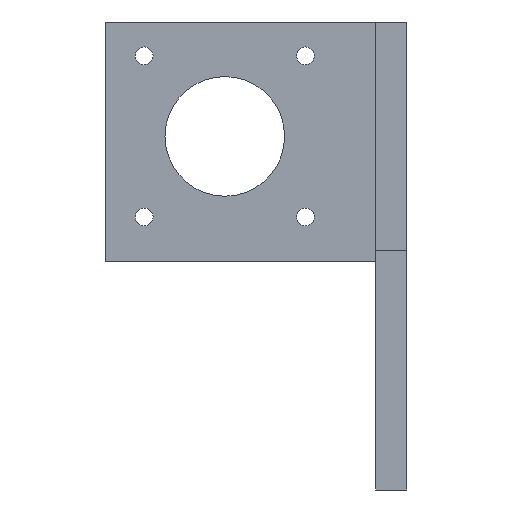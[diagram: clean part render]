
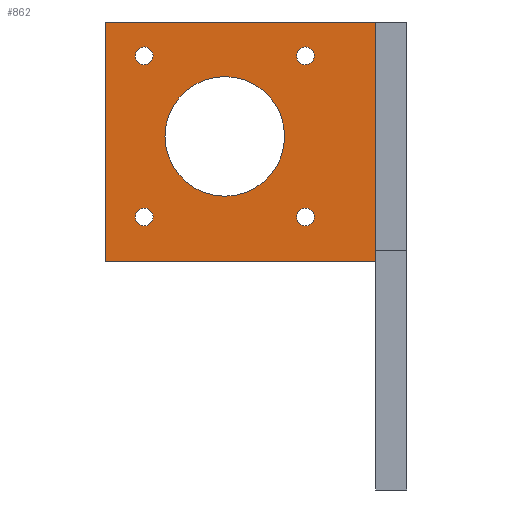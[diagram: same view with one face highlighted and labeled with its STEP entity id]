
A CAD part, front view. The second image highlights one B-rep face of the part: STEP entity #862.
In plain terms, the highlighted planar face has unit normal (0, -1, 0).
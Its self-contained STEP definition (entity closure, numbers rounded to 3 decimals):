
#32 = PLANE('',#33);
#33 = AXIS2_PLACEMENT_3D('',#34,#35,#36);
#34 = CARTESIAN_POINT('',(-86.,-20.,250.));
#35 = DIRECTION('',(1.,0.,0.));
#36 = DIRECTION('',(0.,0.,1.));
#141 = VERTEX_POINT('',#142);
#142 = CARTESIAN_POINT('',(-86.,34.,294.));
#155 = PLANE('',#156);
#156 = AXIS2_PLACEMENT_3D('',#157,#158,#159);
#157 = CARTESIAN_POINT('',(-138.,34.,294.));
#158 = DIRECTION('',(0.,0.,1.));
#159 = DIRECTION('',(1.,0.,0.));
#166 = EDGE_CURVE('',#141,#167,#169,.T.);
#167 = VERTEX_POINT('',#168);
#168 = CARTESIAN_POINT('',(-86.,34.,340.));
#169 = SURFACE_CURVE('',#170,(#174,#180),.PCURVE_S1.);
#170 = LINE('',#171,#172);
#171 = CARTESIAN_POINT('',(-86.,34.,272.));
#172 = VECTOR('',#173,1.);
#173 = DIRECTION('',(0.,0.,1.));
#174 = PCURVE('',#32,#175);
#175 = DEFINITIONAL_REPRESENTATION('',(#176),#179);
#176 = B_SPLINE_CURVE_WITH_KNOTS('',1,(#177,#178),.UNSPECIFIED.,.F.,.F.,
  (2,2),(22.,68.),.PIECEWISE_BEZIER_KNOTS.);
#177 = CARTESIAN_POINT('',(44.,-54.));
#178 = CARTESIAN_POINT('',(90.,-54.));
#179 = ( GEOMETRIC_REPRESENTATION_CONTEXT(2) 
PARAMETRIC_REPRESENTATION_CONTEXT() REPRESENTATION_CONTEXT('2D SPACE',''
  ) );
#180 = PCURVE('',#181,#186);
#181 = PLANE('',#182);
#182 = AXIS2_PLACEMENT_3D('',#183,#184,#185);
#183 = CARTESIAN_POINT('',(-138.,34.,294.));
#184 = DIRECTION('',(0.,1.,0.));
#185 = DIRECTION('',(0.,0.,1.));
#186 = DEFINITIONAL_REPRESENTATION('',(#187),#190);
#187 = B_SPLINE_CURVE_WITH_KNOTS('',1,(#188,#189),.UNSPECIFIED.,.F.,.F.,
  (2,2),(22.,68.),.PIECEWISE_BEZIER_KNOTS.);
#188 = CARTESIAN_POINT('',(0.,52.));
#189 = CARTESIAN_POINT('',(46.,52.));
#190 = ( GEOMETRIC_REPRESENTATION_CONTEXT(2) 
PARAMETRIC_REPRESENTATION_CONTEXT() REPRESENTATION_CONTEXT('2D SPACE',''
  ) );
#208 = PLANE('',#209);
#209 = AXIS2_PLACEMENT_3D('',#210,#211,#212);
#210 = CARTESIAN_POINT('',(-86.,28.,340.));
#211 = DIRECTION('',(0.,0.,1.));
#212 = DIRECTION('',(1.,0.,0.));
#589 = VERTEX_POINT('',#590);
#590 = CARTESIAN_POINT('',(-138.,34.,340.));
#604 = PLANE('',#605);
#605 = AXIS2_PLACEMENT_3D('',#606,#607,#608);
#606 = CARTESIAN_POINT('',(-138.,34.,294.));
#607 = DIRECTION('',(1.,0.,0.));
#608 = DIRECTION('',(0.,0.,1.));
#616 = EDGE_CURVE('',#589,#167,#617,.T.);
#617 = SURFACE_CURVE('',#618,(#622,#629),.PCURVE_S1.);
#618 = LINE('',#619,#620);
#619 = CARTESIAN_POINT('',(-138.,34.,340.));
#620 = VECTOR('',#621,1.);
#621 = DIRECTION('',(1.,0.,0.));
#622 = PCURVE('',#208,#623);
#623 = DEFINITIONAL_REPRESENTATION('',(#624),#628);
#624 = LINE('',#625,#626);
#625 = CARTESIAN_POINT('',(-52.,6.));
#626 = VECTOR('',#627,1.);
#627 = DIRECTION('',(1.,0.));
#628 = ( GEOMETRIC_REPRESENTATION_CONTEXT(2) 
PARAMETRIC_REPRESENTATION_CONTEXT() REPRESENTATION_CONTEXT('2D SPACE',''
  ) );
#629 = PCURVE('',#181,#630);
#630 = DEFINITIONAL_REPRESENTATION('',(#631),#635);
#631 = LINE('',#632,#633);
#632 = CARTESIAN_POINT('',(46.,0.));
#633 = VECTOR('',#634,1.);
#634 = DIRECTION('',(0.,1.));
#635 = ( GEOMETRIC_REPRESENTATION_CONTEXT(2) 
PARAMETRIC_REPRESENTATION_CONTEXT() REPRESENTATION_CONTEXT('2D SPACE',''
  ) );
#727 = CYLINDRICAL_SURFACE('',#728,1.7);
#728 = AXIS2_PLACEMENT_3D('',#729,#730,#731);
#729 = CARTESIAN_POINT('',(-130.5,41.,302.5));
#730 = DIRECTION('',(-0.,1.,-0.));
#731 = DIRECTION('',(1.,0.,0.));
#758 = CYLINDRICAL_SURFACE('',#759,1.7);
#759 = AXIS2_PLACEMENT_3D('',#760,#761,#762);
#760 = CARTESIAN_POINT('',(-130.5,41.,333.5));
#761 = DIRECTION('',(-0.,1.,-0.));
#762 = DIRECTION('',(1.,0.,0.));
#789 = CYLINDRICAL_SURFACE('',#790,1.7);
#790 = AXIS2_PLACEMENT_3D('',#791,#792,#793);
#791 = CARTESIAN_POINT('',(-99.5,41.,302.5));
#792 = DIRECTION('',(-0.,1.,-0.));
#793 = DIRECTION('',(1.,0.,0.));
#820 = CYLINDRICAL_SURFACE('',#821,11.5);
#821 = AXIS2_PLACEMENT_3D('',#822,#823,#824);
#822 = CARTESIAN_POINT('',(-115.,41.,318.));
#823 = DIRECTION('',(-0.,1.,-0.));
#824 = DIRECTION('',(1.,0.,0.));
#851 = CYLINDRICAL_SURFACE('',#852,1.7);
#852 = AXIS2_PLACEMENT_3D('',#853,#854,#855);
#853 = CARTESIAN_POINT('',(-99.5,41.,333.5));
#854 = DIRECTION('',(-0.,1.,-0.));
#855 = DIRECTION('',(1.,0.,0.));
#862 = ADVANCED_FACE('',(#863,#911,#937,#963,#989,#1015),#181,.F.);
#863 = FACE_BOUND('',#864,.F.);
#864 = EDGE_LOOP('',(#865,#888,#909,#910));
#865 = ORIENTED_EDGE('',*,*,#866,.F.);
#866 = EDGE_CURVE('',#867,#141,#869,.T.);
#867 = VERTEX_POINT('',#868);
#868 = CARTESIAN_POINT('',(-138.,34.,294.));
#869 = SURFACE_CURVE('',#870,(#874,#881),.PCURVE_S1.);
#870 = LINE('',#871,#872);
#871 = CARTESIAN_POINT('',(-138.,34.,294.));
#872 = VECTOR('',#873,1.);
#873 = DIRECTION('',(1.,0.,0.));
#874 = PCURVE('',#181,#875);
#875 = DEFINITIONAL_REPRESENTATION('',(#876),#880);
#876 = LINE('',#877,#878);
#877 = CARTESIAN_POINT('',(0.,0.));
#878 = VECTOR('',#879,1.);
#879 = DIRECTION('',(0.,1.));
#880 = ( GEOMETRIC_REPRESENTATION_CONTEXT(2) 
PARAMETRIC_REPRESENTATION_CONTEXT() REPRESENTATION_CONTEXT('2D SPACE',''
  ) );
#881 = PCURVE('',#155,#882);
#882 = DEFINITIONAL_REPRESENTATION('',(#883),#887);
#883 = LINE('',#884,#885);
#884 = CARTESIAN_POINT('',(0.,0.));
#885 = VECTOR('',#886,1.);
#886 = DIRECTION('',(1.,0.));
#887 = ( GEOMETRIC_REPRESENTATION_CONTEXT(2) 
PARAMETRIC_REPRESENTATION_CONTEXT() REPRESENTATION_CONTEXT('2D SPACE',''
  ) );
#888 = ORIENTED_EDGE('',*,*,#889,.T.);
#889 = EDGE_CURVE('',#867,#589,#890,.T.);
#890 = SURFACE_CURVE('',#891,(#895,#902),.PCURVE_S1.);
#891 = LINE('',#892,#893);
#892 = CARTESIAN_POINT('',(-138.,34.,294.));
#893 = VECTOR('',#894,1.);
#894 = DIRECTION('',(0.,0.,1.));
#895 = PCURVE('',#181,#896);
#896 = DEFINITIONAL_REPRESENTATION('',(#897),#901);
#897 = LINE('',#898,#899);
#898 = CARTESIAN_POINT('',(0.,0.));
#899 = VECTOR('',#900,1.);
#900 = DIRECTION('',(1.,0.));
#901 = ( GEOMETRIC_REPRESENTATION_CONTEXT(2) 
PARAMETRIC_REPRESENTATION_CONTEXT() REPRESENTATION_CONTEXT('2D SPACE',''
  ) );
#902 = PCURVE('',#604,#903);
#903 = DEFINITIONAL_REPRESENTATION('',(#904),#908);
#904 = LINE('',#905,#906);
#905 = CARTESIAN_POINT('',(0.,0.));
#906 = VECTOR('',#907,1.);
#907 = DIRECTION('',(1.,0.));
#908 = ( GEOMETRIC_REPRESENTATION_CONTEXT(2) 
PARAMETRIC_REPRESENTATION_CONTEXT() REPRESENTATION_CONTEXT('2D SPACE',''
  ) );
#909 = ORIENTED_EDGE('',*,*,#616,.T.);
#910 = ORIENTED_EDGE('',*,*,#166,.F.);
#911 = FACE_BOUND('',#912,.F.);
#912 = EDGE_LOOP('',(#913));
#913 = ORIENTED_EDGE('',*,*,#914,.F.);
#914 = EDGE_CURVE('',#915,#915,#917,.T.);
#915 = VERTEX_POINT('',#916);
#916 = CARTESIAN_POINT('',(-128.8,34.,302.5));
#917 = SURFACE_CURVE('',#918,(#923,#930),.PCURVE_S1.);
#918 = CIRCLE('',#919,1.7);
#919 = AXIS2_PLACEMENT_3D('',#920,#921,#922);
#920 = CARTESIAN_POINT('',(-130.5,34.,302.5));
#921 = DIRECTION('',(-0.,1.,0.));
#922 = DIRECTION('',(1.,0.,0.));
#923 = PCURVE('',#181,#924);
#924 = DEFINITIONAL_REPRESENTATION('',(#925),#929);
#925 = CIRCLE('',#926,1.7);
#926 = AXIS2_PLACEMENT_2D('',#927,#928);
#927 = CARTESIAN_POINT('',(8.5,7.5));
#928 = DIRECTION('',(0.,1.));
#929 = ( GEOMETRIC_REPRESENTATION_CONTEXT(2) 
PARAMETRIC_REPRESENTATION_CONTEXT() REPRESENTATION_CONTEXT('2D SPACE',''
  ) );
#930 = PCURVE('',#727,#931);
#931 = DEFINITIONAL_REPRESENTATION('',(#932),#936);
#932 = LINE('',#933,#934);
#933 = CARTESIAN_POINT('',(-6.283,-7.));
#934 = VECTOR('',#935,1.);
#935 = DIRECTION('',(1.,-0.));
#936 = ( GEOMETRIC_REPRESENTATION_CONTEXT(2) 
PARAMETRIC_REPRESENTATION_CONTEXT() REPRESENTATION_CONTEXT('2D SPACE',''
  ) );
#937 = FACE_BOUND('',#938,.F.);
#938 = EDGE_LOOP('',(#939));
#939 = ORIENTED_EDGE('',*,*,#940,.F.);
#940 = EDGE_CURVE('',#941,#941,#943,.T.);
#941 = VERTEX_POINT('',#942);
#942 = CARTESIAN_POINT('',(-103.5,34.,318.));
#943 = SURFACE_CURVE('',#944,(#949,#956),.PCURVE_S1.);
#944 = CIRCLE('',#945,11.5);
#945 = AXIS2_PLACEMENT_3D('',#946,#947,#948);
#946 = CARTESIAN_POINT('',(-115.,34.,318.));
#947 = DIRECTION('',(-0.,1.,0.));
#948 = DIRECTION('',(1.,0.,0.));
#949 = PCURVE('',#181,#950);
#950 = DEFINITIONAL_REPRESENTATION('',(#951),#955);
#951 = CIRCLE('',#952,11.5);
#952 = AXIS2_PLACEMENT_2D('',#953,#954);
#953 = CARTESIAN_POINT('',(24.,23.));
#954 = DIRECTION('',(0.,1.));
#955 = ( GEOMETRIC_REPRESENTATION_CONTEXT(2) 
PARAMETRIC_REPRESENTATION_CONTEXT() REPRESENTATION_CONTEXT('2D SPACE',''
  ) );
#956 = PCURVE('',#820,#957);
#957 = DEFINITIONAL_REPRESENTATION('',(#958),#962);
#958 = LINE('',#959,#960);
#959 = CARTESIAN_POINT('',(-6.283,-7.));
#960 = VECTOR('',#961,1.);
#961 = DIRECTION('',(1.,-0.));
#962 = ( GEOMETRIC_REPRESENTATION_CONTEXT(2) 
PARAMETRIC_REPRESENTATION_CONTEXT() REPRESENTATION_CONTEXT('2D SPACE',''
  ) );
#963 = FACE_BOUND('',#964,.F.);
#964 = EDGE_LOOP('',(#965));
#965 = ORIENTED_EDGE('',*,*,#966,.F.);
#966 = EDGE_CURVE('',#967,#967,#969,.T.);
#967 = VERTEX_POINT('',#968);
#968 = CARTESIAN_POINT('',(-128.8,34.,333.5));
#969 = SURFACE_CURVE('',#970,(#975,#982),.PCURVE_S1.);
#970 = CIRCLE('',#971,1.7);
#971 = AXIS2_PLACEMENT_3D('',#972,#973,#974);
#972 = CARTESIAN_POINT('',(-130.5,34.,333.5));
#973 = DIRECTION('',(-0.,1.,0.));
#974 = DIRECTION('',(1.,0.,0.));
#975 = PCURVE('',#181,#976);
#976 = DEFINITIONAL_REPRESENTATION('',(#977),#981);
#977 = CIRCLE('',#978,1.7);
#978 = AXIS2_PLACEMENT_2D('',#979,#980);
#979 = CARTESIAN_POINT('',(39.5,7.5));
#980 = DIRECTION('',(0.,1.));
#981 = ( GEOMETRIC_REPRESENTATION_CONTEXT(2) 
PARAMETRIC_REPRESENTATION_CONTEXT() REPRESENTATION_CONTEXT('2D SPACE',''
  ) );
#982 = PCURVE('',#758,#983);
#983 = DEFINITIONAL_REPRESENTATION('',(#984),#988);
#984 = LINE('',#985,#986);
#985 = CARTESIAN_POINT('',(-6.283,-7.));
#986 = VECTOR('',#987,1.);
#987 = DIRECTION('',(1.,-0.));
#988 = ( GEOMETRIC_REPRESENTATION_CONTEXT(2) 
PARAMETRIC_REPRESENTATION_CONTEXT() REPRESENTATION_CONTEXT('2D SPACE',''
  ) );
#989 = FACE_BOUND('',#990,.F.);
#990 = EDGE_LOOP('',(#991));
#991 = ORIENTED_EDGE('',*,*,#992,.F.);
#992 = EDGE_CURVE('',#993,#993,#995,.T.);
#993 = VERTEX_POINT('',#994);
#994 = CARTESIAN_POINT('',(-97.8,34.,302.5));
#995 = SURFACE_CURVE('',#996,(#1001,#1008),.PCURVE_S1.);
#996 = CIRCLE('',#997,1.7);
#997 = AXIS2_PLACEMENT_3D('',#998,#999,#1000);
#998 = CARTESIAN_POINT('',(-99.5,34.,302.5));
#999 = DIRECTION('',(-0.,1.,0.));
#1000 = DIRECTION('',(1.,0.,0.));
#1001 = PCURVE('',#181,#1002);
#1002 = DEFINITIONAL_REPRESENTATION('',(#1003),#1007);
#1003 = CIRCLE('',#1004,1.7);
#1004 = AXIS2_PLACEMENT_2D('',#1005,#1006);
#1005 = CARTESIAN_POINT('',(8.5,38.5));
#1006 = DIRECTION('',(0.,1.));
#1007 = ( GEOMETRIC_REPRESENTATION_CONTEXT(2) 
PARAMETRIC_REPRESENTATION_CONTEXT() REPRESENTATION_CONTEXT('2D SPACE',''
  ) );
#1008 = PCURVE('',#789,#1009);
#1009 = DEFINITIONAL_REPRESENTATION('',(#1010),#1014);
#1010 = LINE('',#1011,#1012);
#1011 = CARTESIAN_POINT('',(-6.283,-7.));
#1012 = VECTOR('',#1013,1.);
#1013 = DIRECTION('',(1.,-0.));
#1014 = ( GEOMETRIC_REPRESENTATION_CONTEXT(2) 
PARAMETRIC_REPRESENTATION_CONTEXT() REPRESENTATION_CONTEXT('2D SPACE',''
  ) );
#1015 = FACE_BOUND('',#1016,.F.);
#1016 = EDGE_LOOP('',(#1017));
#1017 = ORIENTED_EDGE('',*,*,#1018,.F.);
#1018 = EDGE_CURVE('',#1019,#1019,#1021,.T.);
#1019 = VERTEX_POINT('',#1020);
#1020 = CARTESIAN_POINT('',(-97.8,34.,333.5));
#1021 = SURFACE_CURVE('',#1022,(#1027,#1034),.PCURVE_S1.);
#1022 = CIRCLE('',#1023,1.7);
#1023 = AXIS2_PLACEMENT_3D('',#1024,#1025,#1026);
#1024 = CARTESIAN_POINT('',(-99.5,34.,333.5));
#1025 = DIRECTION('',(-0.,1.,0.));
#1026 = DIRECTION('',(1.,0.,0.));
#1027 = PCURVE('',#181,#1028);
#1028 = DEFINITIONAL_REPRESENTATION('',(#1029),#1033);
#1029 = CIRCLE('',#1030,1.7);
#1030 = AXIS2_PLACEMENT_2D('',#1031,#1032);
#1031 = CARTESIAN_POINT('',(39.5,38.5));
#1032 = DIRECTION('',(0.,1.));
#1033 = ( GEOMETRIC_REPRESENTATION_CONTEXT(2) 
PARAMETRIC_REPRESENTATION_CONTEXT() REPRESENTATION_CONTEXT('2D SPACE',''
  ) );
#1034 = PCURVE('',#851,#1035);
#1035 = DEFINITIONAL_REPRESENTATION('',(#1036),#1040);
#1036 = LINE('',#1037,#1038);
#1037 = CARTESIAN_POINT('',(-6.283,-7.));
#1038 = VECTOR('',#1039,1.);
#1039 = DIRECTION('',(1.,-0.));
#1040 = ( GEOMETRIC_REPRESENTATION_CONTEXT(2) 
PARAMETRIC_REPRESENTATION_CONTEXT() REPRESENTATION_CONTEXT('2D SPACE',''
  ) );
